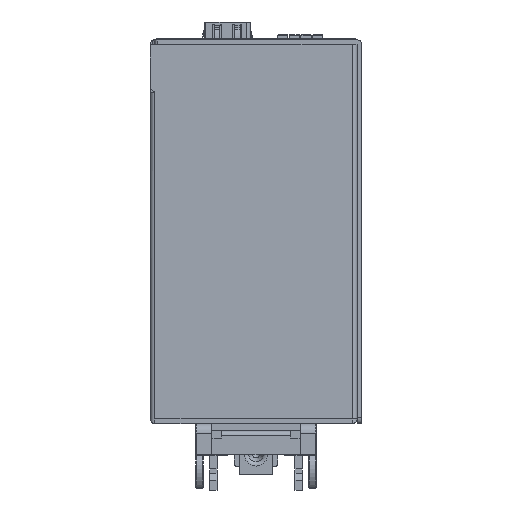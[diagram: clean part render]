
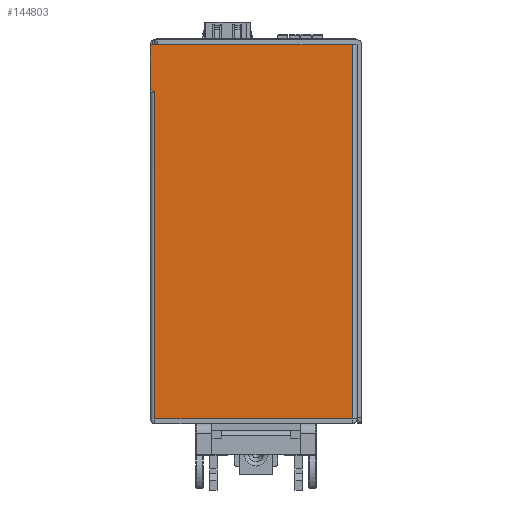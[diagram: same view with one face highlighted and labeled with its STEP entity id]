
A CAD part, front view. The second image highlights one B-rep face of the part: STEP entity #144803.
In plain terms, the highlighted planar face has unit normal (0, -1, 0).
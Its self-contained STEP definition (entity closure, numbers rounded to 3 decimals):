
#5723=PLANE('',#154765);
#13690=FACE_OUTER_BOUND('',#21261,.T.);
#21261=EDGE_LOOP('',(#126878,#126879,#126880,#126881,#126882,#126883,#126884,
#126885,#126886));
#25037=CIRCLE('',#154721,0.25);
#25040=CIRCLE('',#154730,1.);
#25043=CIRCLE('',#154735,1.);
#39417=LINE('',#242593,#55210);
#40010=LINE('',#245506,#55803);
#40055=LINE('',#245659,#55848);
#40056=LINE('',#245661,#55849);
#40057=LINE('',#245663,#55850);
#40058=LINE('',#245664,#55851);
#55210=VECTOR('',#187703,10.);
#55803=VECTOR('',#188718,10.);
#55848=VECTOR('',#188845,10.);
#55849=VECTOR('',#188848,10.);
#55850=VECTOR('',#188851,10.);
#55851=VECTOR('',#188852,10.);
#68434=VERTEX_POINT('',#242585);
#68437=VERTEX_POINT('',#242591);
#68992=VERTEX_POINT('',#245498);
#68994=VERTEX_POINT('',#245504);
#69004=VERTEX_POINT('',#245532);
#69006=VERTEX_POINT('',#245541);
#69036=VERTEX_POINT('',#245625);
#69040=VERTEX_POINT('',#245655);
#69041=VERTEX_POINT('',#245657);
#87671=EDGE_CURVE('',#68437,#68434,#39417,.T.);
#88484=EDGE_CURVE('',#68992,#68437,#25037,.T.);
#88487=EDGE_CURVE('',#68994,#68992,#40010,.T.);
#88500=EDGE_CURVE('',#69004,#68994,#25040,.T.);
#88505=EDGE_CURVE('',#69004,#69006,#25043,.F.);
#88557=EDGE_CURVE('',#69041,#69040,#40055,.T.);
#88558=EDGE_CURVE('',#69036,#69040,#40056,.T.);
#88559=EDGE_CURVE('',#69036,#69006,#40057,.T.);
#88560=EDGE_CURVE('',#69041,#68434,#40058,.T.);
#126878=ORIENTED_EDGE('',*,*,#88484,.F.);
#126879=ORIENTED_EDGE('',*,*,#88487,.F.);
#126880=ORIENTED_EDGE('',*,*,#88500,.F.);
#126881=ORIENTED_EDGE('',*,*,#88505,.T.);
#126882=ORIENTED_EDGE('',*,*,#88559,.F.);
#126883=ORIENTED_EDGE('',*,*,#88558,.T.);
#126884=ORIENTED_EDGE('',*,*,#88557,.F.);
#126885=ORIENTED_EDGE('',*,*,#88560,.T.);
#126886=ORIENTED_EDGE('',*,*,#87671,.F.);
#144803=ADVANCED_FACE('',(#13690),#5723,.T.);
#154721=AXIS2_PLACEMENT_3D('',#245500,#188712,#188713);
#154730=AXIS2_PLACEMENT_3D('',#245534,#188743,#188744);
#154735=AXIS2_PLACEMENT_3D('',#245543,#188755,#188756);
#154765=AXIS2_PLACEMENT_3D('',#245662,#188849,#188850);
#187703=DIRECTION('',(1.,0.,0.));
#188712=DIRECTION('center_axis',(0.,1.,0.));
#188713=DIRECTION('ref_axis',(-0.707,0.,
0.707));
#188718=DIRECTION('',(0.,0.,1.));
#188743=DIRECTION('center_axis',(0.,1.,0.));
#188744=DIRECTION('ref_axis',(1.,0.,0.));
#188755=DIRECTION('center_axis',(0.,-1.,0.));
#188756=DIRECTION('ref_axis',(0.866,0.,0.5));
#188845=DIRECTION('',(0.,0.,-1.));
#188848=DIRECTION('',(1.,0.,0.));
#188849=DIRECTION('center_axis',(0.,-1.,0.));
#188850=DIRECTION('ref_axis',(0.,0.,-1.));
#188851=DIRECTION('',(0.,0.,1.));
#188852=DIRECTION('',(-1.,0.,0.));
#242585=CARTESIAN_POINT('',(-57.205,-79.389,38.8));
#242591=CARTESIAN_POINT('',(-58.455,-79.389,38.8));
#242593=CARTESIAN_POINT('',(-57.705,-79.389,38.8));
#245498=CARTESIAN_POINT('',(-58.705,-79.389,38.55));
#245500=CARTESIAN_POINT('Origin',(-58.455,-79.389,38.55));
#245504=CARTESIAN_POINT('',(-58.705,-79.389,30.103));
#245506=CARTESIAN_POINT('',(-58.705,-79.389,29.3));
#245532=CARTESIAN_POINT('',(-58.138,-79.389,29.201));
#245534=CARTESIAN_POINT('Origin',(-57.705,-79.389,30.103));
#245541=CARTESIAN_POINT('',(-57.705,-79.389,28.8));
#245543=CARTESIAN_POINT('Origin',(-58.571,-79.389,28.3));
#245625=CARTESIAN_POINT('',(-57.705,-79.389,-38.99));
#245655=CARTESIAN_POINT('',(-16.705,-79.389,-38.99));
#245657=CARTESIAN_POINT('',(-16.705,-79.389,38.8));
#245659=CARTESIAN_POINT('',(-16.705,-79.389,14.353));
#245661=CARTESIAN_POINT('',(-57.705,-79.389,-38.99));
#245662=CARTESIAN_POINT('Origin',(-58.705,-79.389,28.8));
#245663=CARTESIAN_POINT('',(-57.705,-79.389,11.6));
#245664=CARTESIAN_POINT('',(-58.705,-79.389,38.8));
